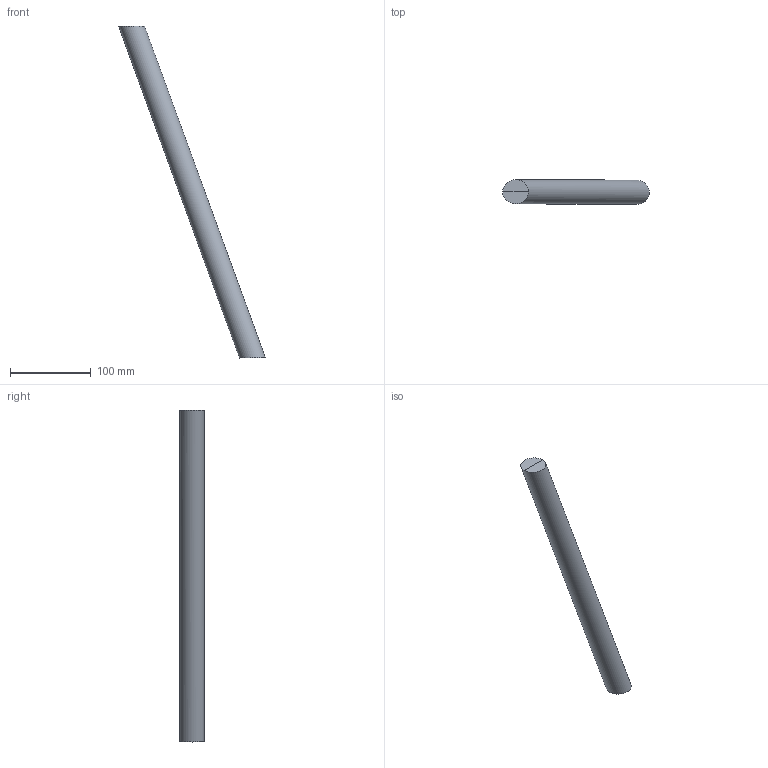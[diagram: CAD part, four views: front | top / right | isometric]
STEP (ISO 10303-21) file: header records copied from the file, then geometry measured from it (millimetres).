
FILE_DESCRIPTION(/* description */ ('C TOWER MAST SECTION 125 CM'),/* implementation_level */ '2;1');
FILE_NAME(/* name */ 'M:\Symbolen_NIEUW\STP\52-er truss\C52T\C52T-L125_111810003.stp',/* time_stamp */ '2017-12-15T16:01:34+01:00',/* author */ ('Kees'),/* organization */ (''),/* preprocessor_version */ 'ST-DEVELOPER v16.13',/* originating_system */ 'Autodesk Inventor 2018',/* authorisation */ '');
FILE_SCHEMA (('AUTOMOTIVE_DESIGN { 1 0 10303 214 3 1 1 }'));
Length unit declared in the file: millimetre
Products named in the file (1): 160009587
Bounding box: 181.15 x 29.99 x 410 mm (x, y, z)
Volume: 308411.4 mm3; surface area: 42626 mm2
Topology: 1 solids, 1 shells, 5 faces, 7 edges, 4 vertices
Faces by surface type: plane 4, cylinder 1
Full cylindrical faces by diameter (mm): 30 x1
Entity records: 163 total; most frequent: DIRECTION 22, CARTESIAN_POINT 16, ORIENTED_EDGE 12, AXIS2_PLACEMENT_3D 10, EDGE_LOOP 6, EDGE_CURVE 6, STYLED_ITEM 6, FACE_OUTER_BOUND 5
